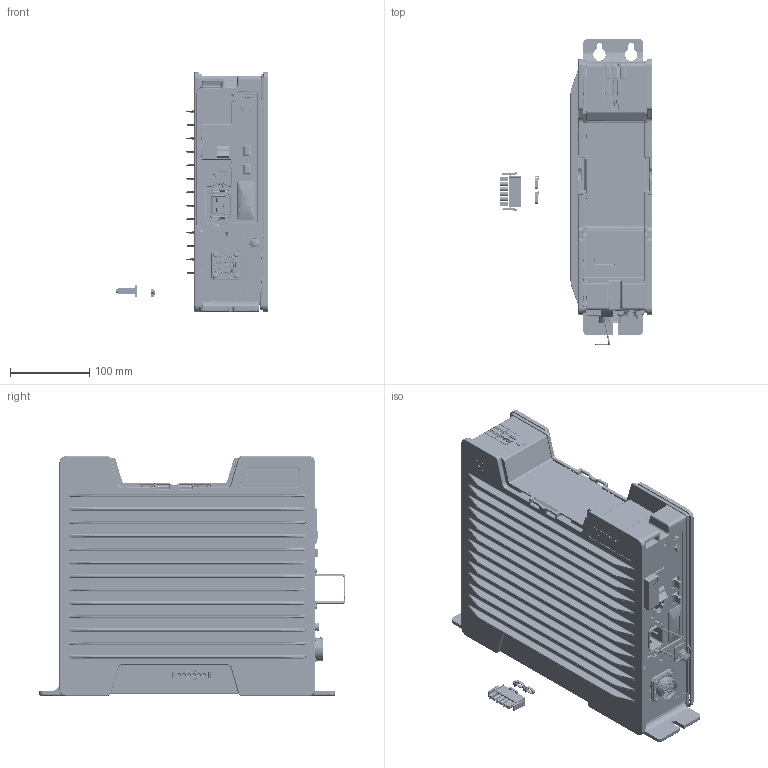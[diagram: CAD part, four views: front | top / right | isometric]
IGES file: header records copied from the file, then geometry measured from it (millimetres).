
Start section:  PTC IGES file: 6159327800_dim.igs
Global section: file name: 6159327800_dim.igs; native system: Creo Parametric by PTC Inc.; preprocessor: 2022414; author: SYSTEM; organization: Unknown; date: 20250515.144358; units: millimetre
Bounding box: 193.43 x 387.04 x 303.44 mm (x, y, z)
Surface area: 755092.2 mm2 (no closed solid volume)
Topology: 0 solids, 0 shells, 6593 faces, 56521 edges, 56490 vertices
Faces by surface type: bspline 4175, revolution 2318, extrusion 100
